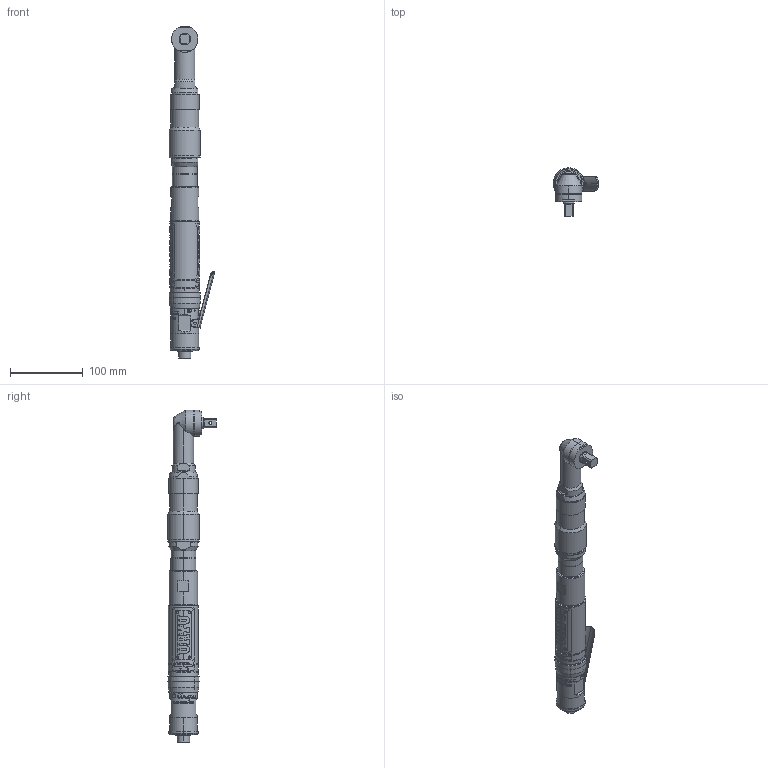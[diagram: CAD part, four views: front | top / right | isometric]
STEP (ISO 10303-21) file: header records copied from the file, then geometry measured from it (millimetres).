
FILE_DESCRIPTION (( 'STEP AP203' ), '1' );
FILE_NAME ('UAN-701R-30C.STEP', '2007-10-26T06:25:44', ( 'gikai-nt16' ), ( ' ' ), 'SwSTEP 2.0', 'SolidWorks 2003240', '' );
FILE_SCHEMA (( 'CONFIG_CONTROL_DESIGN' ));
Length unit declared in the file: millimetre
Products named in the file (10): 2680255_UAN-701R-30C_蹬怮椔; 2683696_UAN-611R-30C_蹬怮椔; 1961077_UAN-701R-30C_蹬怮椔; UAN-701R-30C; 2694305_UAN-701R-30C_蹬怮椔; 2694415_UAN-701R-30C_蹬怮椔; 2597806_UAN-611R-30C_蹬怮椔; 2688405_UAN-701R-30C_蹬怮椔; 2682126_UAN-611R-30C_蹬怮椔; 2591140_UAN-611R-30C_蹬怮椔
Assembly tree (9 placements, depth 2):
  UAN-701R-30C
    2694415_UAN-701R-30C_蹬怮椔
    2688405_UAN-701R-30C_蹬怮椔
    2683696_UAN-611R-30C_蹬怮椔
    2682126_UAN-611R-30C_蹬怮椔
    2694305_UAN-701R-30C_蹬怮椔
    2680255_UAN-701R-30C_蹬怮椔
    1961077_UAN-701R-30C_蹬怮椔
    2591140_UAN-611R-30C_蹬怮椔
    2597806_UAN-611R-30C_蹬怮椔
Bounding box: 62.88 x 66.5 x 455.2 mm (x, y, z)
Volume: 513726.5 mm3; surface area: 102080.6 mm2
Topology: 9 solids, 9 shells, 989 faces, 2594 edges, 1706 vertices
Faces by surface type: plane 485, cylinder 354, bspline 99, cone 41, torus 8, sphere 2
Entity records: 40521 total; most frequent: CARTESIAN_POINT 16378, ORIENTED_EDGE 5184, DIRECTION 4319, EDGE_CURVE 2592, VERTEX_POINT 1706, AXIS2_PLACEMENT_3D 1574, VECTOR 1171, LINE 1171
